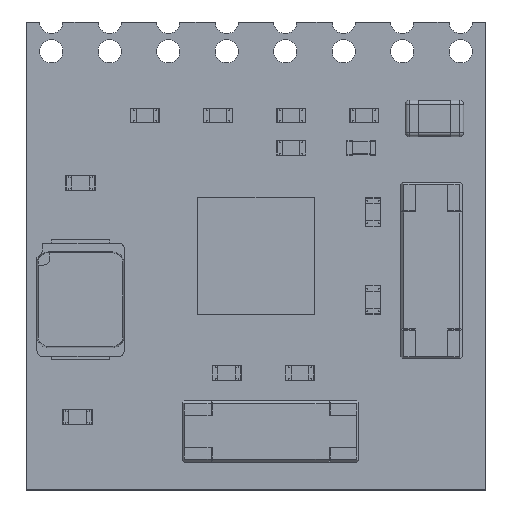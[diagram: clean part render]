
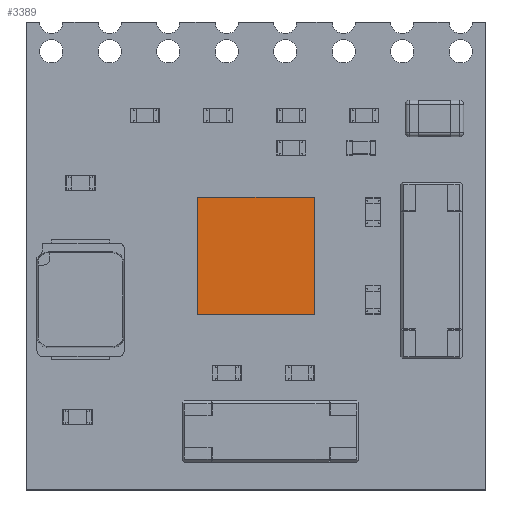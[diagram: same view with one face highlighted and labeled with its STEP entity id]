
A CAD part, top view. The second image highlights one B-rep face of the part: STEP entity #3389.
In plain terms, the highlighted planar face has unit normal (0, 0, 1) as drawn and (0, 1, 0) by its records, which use the part's own axes.
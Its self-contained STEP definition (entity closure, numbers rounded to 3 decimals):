
#2416 = VERTEX_POINT('',#2417);
#2417 = CARTESIAN_POINT('',(2.,0.715,-2.));
#2423 = EDGE_CURVE('',#2424,#2416,#2426,.T.);
#2424 = VERTEX_POINT('',#2425);
#2425 = CARTESIAN_POINT('',(2.,0.715,2.));
#2426 = LINE('',#2427,#2428);
#2427 = CARTESIAN_POINT('',(2.,0.715,2.));
#2428 = VECTOR('',#2429,1.);
#2429 = DIRECTION('',(0.,0.,-1.));
#2680 = VERTEX_POINT('',#2681);
#2681 = CARTESIAN_POINT('',(-2.,0.715,-2.));
#2687 = EDGE_CURVE('',#2416,#2680,#2688,.T.);
#2688 = LINE('',#2689,#2690);
#2689 = CARTESIAN_POINT('',(-2.,0.715,-2.));
#2690 = VECTOR('',#2691,1.);
#2691 = DIRECTION('',(-1.,-0.,-0.));
#2935 = VERTEX_POINT('',#2936);
#2936 = CARTESIAN_POINT('',(-2.,0.715,2.));
#2942 = EDGE_CURVE('',#2680,#2935,#2943,.T.);
#2943 = LINE('',#2944,#2945);
#2944 = CARTESIAN_POINT('',(-2.,0.715,2.));
#2945 = VECTOR('',#2946,1.);
#2946 = DIRECTION('',(-0.,-0.,1.));
#3284 = EDGE_CURVE('',#2935,#2424,#3285,.T.);
#3285 = LINE('',#3286,#3287);
#3286 = CARTESIAN_POINT('',(-2.,0.715,2.));
#3287 = VECTOR('',#3288,1.);
#3288 = DIRECTION('',(1.,0.,0.));
#3389 = ADVANCED_FACE('',(#3390),#3396,.F.);
#3390 = FACE_BOUND('',#3391,.T.);
#3391 = EDGE_LOOP('',(#3392,#3393,#3394,#3395));
#3392 = ORIENTED_EDGE('',*,*,#2423,.T.);
#3393 = ORIENTED_EDGE('',*,*,#2687,.T.);
#3394 = ORIENTED_EDGE('',*,*,#2942,.T.);
#3395 = ORIENTED_EDGE('',*,*,#3284,.T.);
#3396 = PLANE('',#3397);
#3397 = AXIS2_PLACEMENT_3D('',#3398,#3399,#3400);
#3398 = CARTESIAN_POINT('',(0.,0.715,0.));
#3399 = DIRECTION('',(0.,-1.,0.));
#3400 = DIRECTION('',(0.,-0.,-1.));
